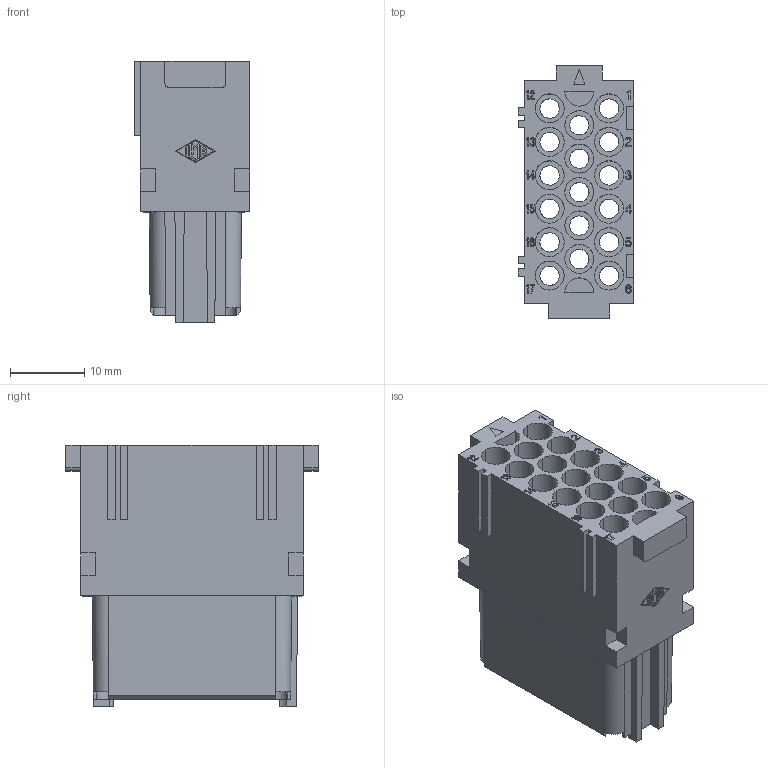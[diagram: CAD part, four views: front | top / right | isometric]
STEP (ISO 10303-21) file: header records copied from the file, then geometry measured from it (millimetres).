
FILE_DESCRIPTION (( 'STEP AP214' ), '1' );
FILE_NAME ('CX 17 DF.STEP', '2012-09-10T18:19:14', ( 'Mencom User' ), ( 'Hewlett-Packard Company' ), 'SwSTEP 2.0', 'SolidWorks 2012', '' );
FILE_SCHEMA (( 'AUTOMOTIVE_DESIGN' ));
Length unit declared in the file: inch
Products named in the file (1): CX 17 DF
Bounding box: 15.6 x 34 x 35.2 mm (x, y, z)
Volume: 7604.8 mm3; surface area: 10621.6 mm2
Topology: 1 solids, 1 shells, 1126 faces, 3275 edges, 2220 vertices
Faces by surface type: plane 992, cylinder 134
Entity records: 57056 total; most frequent: CARTESIAN_POINT 13132, ORIENTED_EDGE 6550, DIRECTION 5190, EDGE_CURVE 3275, LINE 2862, VECTOR 2862, VERTEX_POINT 2220, EDGE_LOOP 1229
